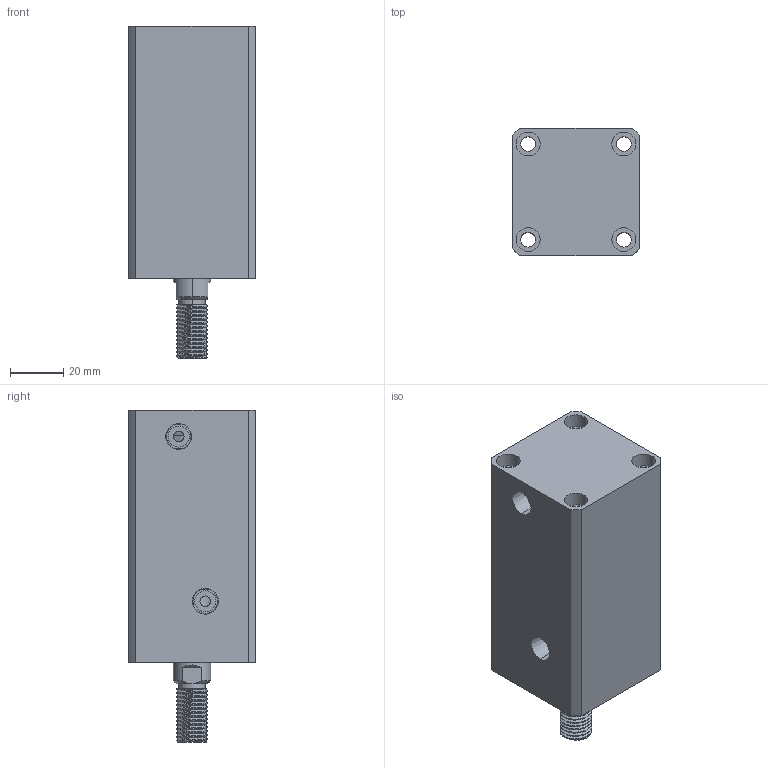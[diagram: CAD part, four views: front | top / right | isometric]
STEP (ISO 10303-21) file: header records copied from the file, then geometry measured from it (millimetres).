
FILE_DESCRIPTION (( 'STEP AP214' ), '1' );
FILE_NAME ('chtb-sd25x50w_asm.STEP', '2018-05-22T09:36:58', ( 'Windows' ), ( 'Microsoft' ), 'SwSTEP 2.0', 'SolidWorks 2015', '' );
FILE_SCHEMA (( 'AUTOMOTIVE_DESIGN' ));
Length unit declared in the file: millimetre
Products named in the file (4): CHTB-SD25X50WHSG; CHTB-SD25X50NBT; CHTB-25QG; chtb-sd25x50w_asm
Assembly tree (3 placements, depth 2):
  chtb-sd25x50w_asm
    CHTB-25QG
    CHTB-SD25X50NBT
    CHTB-SD25X50WHSG
Bounding box: 48 x 48 x 125 mm (x, y, z)
Volume: 190727.8 mm3; surface area: 49245.4 mm2
Topology: 3 solids, 3 shells, 178 faces, 474 edges, 323 vertices
Faces by surface type: cylinder 113, plane 39, cone 14, bspline 12
Entity records: 10610 total; most frequent: CARTESIAN_POINT 6273, ORIENTED_EDGE 940, DIRECTION 778, EDGE_CURVE 470, VERTEX_POINT 323, AXIS2_PLACEMENT_3D 317, EDGE_LOOP 217, ADVANCED_FACE 178
